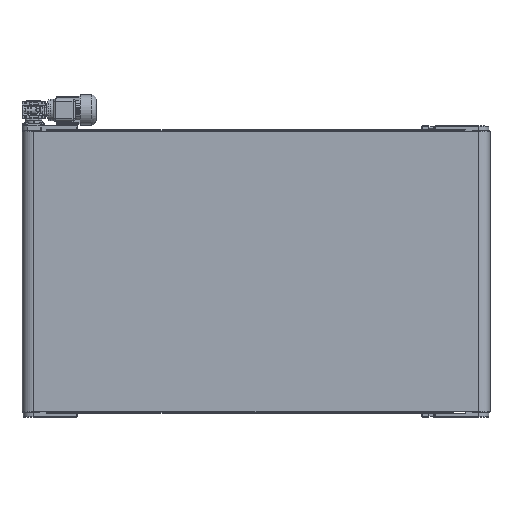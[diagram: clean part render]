
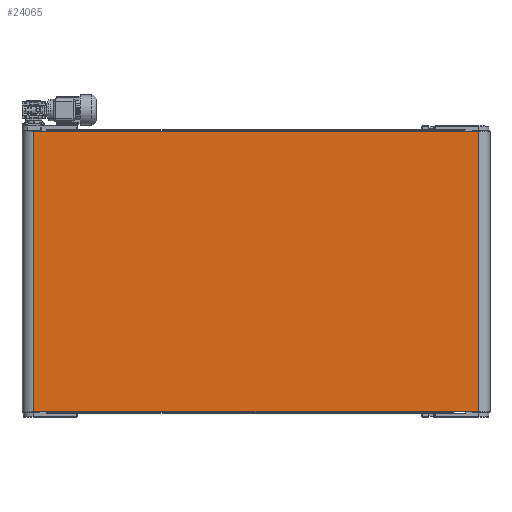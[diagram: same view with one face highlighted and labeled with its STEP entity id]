
A CAD part, top view. The second image highlights one B-rep face of the part: STEP entity #24065.
In plain terms, the highlighted planar face has unit normal (0, 0, 1).
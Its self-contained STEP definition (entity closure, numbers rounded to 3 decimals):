
#1182 = CARTESIAN_POINT ( 'NONE',  ( 50., 1200., 50. ) ) ;
#2105 = ORIENTED_EDGE ( 'NONE', *, *, #2615, .F. ) ;
#2615 = EDGE_CURVE ( 'NONE', #6858, #4660, #45112, .T. ) ;
#2928 = CARTESIAN_POINT ( 'NONE',  ( 1950., 1200., 50. ) ) ;
#4660 = VERTEX_POINT ( 'NONE', #25689 ) ;
#6858 = VERTEX_POINT ( 'NONE', #23418 ) ;
#7712 = FACE_OUTER_BOUND ( 'NONE', #13877, .T. ) ;
#8563 = PLANE ( 'NONE',  #35736 ) ;
#8874 = ORIENTED_EDGE ( 'NONE', *, *, #57406, .T. ) ;
#9132 = ORIENTED_EDGE ( 'NONE', *, *, #18656, .F. ) ;
#9390 = LINE ( 'NONE', #1182, #56037 ) ;
#9746 = DIRECTION ( 'NONE',  ( 1., 0., 0. ) ) ;
#13508 = VECTOR ( 'NONE', #9746, 1000. ) ;
#13877 = EDGE_LOOP ( 'NONE', ( #8874, #9132, #2105, #42214 ) ) ;
#14314 = DIRECTION ( 'NONE',  ( 1., 0., 0. ) ) ;
#18656 = EDGE_CURVE ( 'NONE', #4660, #40832, #46518, .T. ) ;
#22674 = CARTESIAN_POINT ( 'NONE',  ( 50., 0., 50. ) ) ;
#23418 = CARTESIAN_POINT ( 'NONE',  ( 50., 1200., 50. ) ) ;
#23783 = CARTESIAN_POINT ( 'NONE',  ( 50., 1200., 50. ) ) ;
#24065 = ADVANCED_FACE ( 'NONE', ( #7712 ), #8563, .F. ) ;
#24588 = DIRECTION ( 'NONE',  ( 0., -1., 0. ) ) ;
#25689 = CARTESIAN_POINT ( 'NONE',  ( 1950., 1200., 50. ) ) ;
#27828 = DIRECTION ( 'NONE',  ( 0., -1., 0. ) ) ;
#28301 = VERTEX_POINT ( 'NONE', #22674 ) ;
#35736 = AXIS2_PLACEMENT_3D ( 'NONE', #36838, #50295, #45893 ) ;
#35833 = VECTOR ( 'NONE', #24588, 1000. ) ;
#36838 = CARTESIAN_POINT ( 'NONE',  ( 50., 1200., 50. ) ) ;
#38872 = EDGE_CURVE ( 'NONE', #6858, #28301, #9390, .T. ) ;
#40832 = VERTEX_POINT ( 'NONE', #53909 ) ;
#41467 = CARTESIAN_POINT ( 'NONE',  ( 50., 0., 50. ) ) ;
#42214 = ORIENTED_EDGE ( 'NONE', *, *, #38872, .T. ) ;
#45112 = LINE ( 'NONE', #23783, #13508 ) ;
#45893 = DIRECTION ( 'NONE',  ( -1., 0., 0. ) ) ;
#46449 = LINE ( 'NONE', #41467, #48435 ) ;
#46518 = LINE ( 'NONE', #2928, #35833 ) ;
#48435 = VECTOR ( 'NONE', #14314, 1000. ) ;
#50295 = DIRECTION ( 'NONE',  ( 0., 0., -1. ) ) ;
#53909 = CARTESIAN_POINT ( 'NONE',  ( 1950., 0., 50. ) ) ;
#56037 = VECTOR ( 'NONE', #27828, 1000. ) ;
#57406 = EDGE_CURVE ( 'NONE', #28301, #40832, #46449, .T. ) ;
